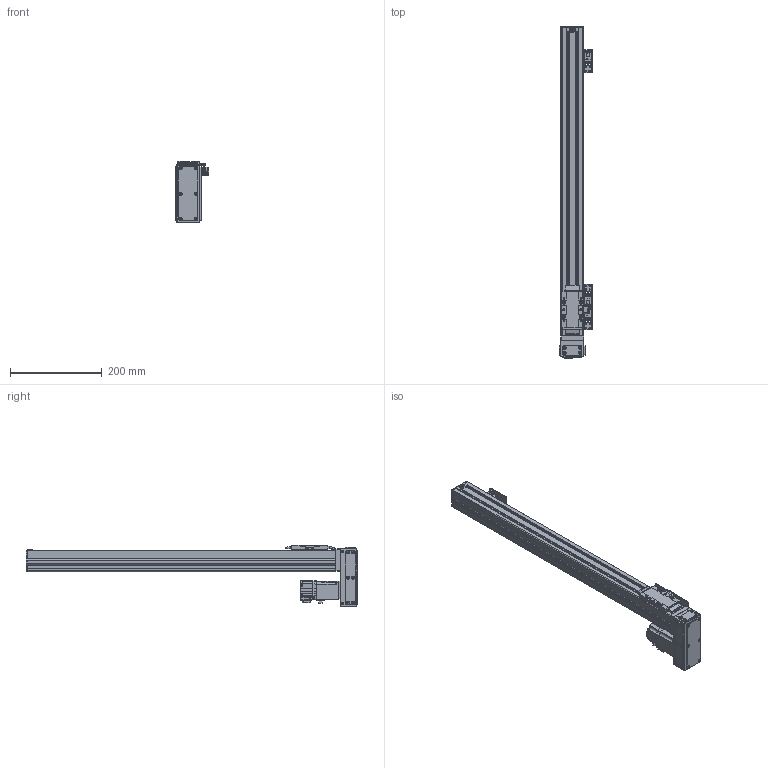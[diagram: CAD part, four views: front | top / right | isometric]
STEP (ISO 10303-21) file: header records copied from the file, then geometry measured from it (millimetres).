
FILE_DESCRIPTION(/* description */ (''),/* implementation_level */ '2;1');
FILE_NAME(/* name */ '\\192.168.0.160\disk1\HAN SHIN Master\B-설계부문\C-표준\B-2024년\BC02-표준도면\+로봇 개선표준도면\홈페이지 표준 도면\홈페이지 최종 작업 폴더\3D\HC\HC50-D10-N-0550-R10.stp',/* time_stamp */ '2025-05-26T17:58:44+09:00',/* author */ ('user'),/* organization */ (''),/* preprocessor_version */ 'ST-DEVELOPER v18.1',/* originating_system */ 'Autodesk Inventor 2022',/* authorisation */ '');
FILE_SCHEMA (('AUTOMOTIVE_DESIGN { 1 0 10303 214 3 1 1 }'));
Length unit declared in the file: millimetre
Products named in the file (27): HC50-D10-N-0200-R10 (높이 변경); HC50 BASE-R1; HC50 REAR BLOCK; HR45 FRONT BLOCK; SENSOR DOG BRK; HC50 SENSOR DOG; ISO 4762 - M3 x 16; HC45 UPCOVER; HC75,90 SHEET PLATE; HC45, HC65 STOPPER; HC50 REAR COVER-R3; SENSOR BRK(EE-SX674A); EE_SX674A; ESF1210 NUT; HC50SIDECOVER000; HC50 TABLE (서버리 테이프); HC75 TABLE COVER; HC45 TABLE SIDE COVER; MAGNET(∅10X3); hg-kr13_; HC50 DS; HC50 D MOTOR PLATE; HR45 MOTOR PLATE 100W; HC50 D BELT COVER; HR45 ACRYL COVER(정면); HR45 ACRYL COVER(상하면); HR45 ACRYL COVER(측면)
Assembly tree (38 placements, depth 3):
  HC50-D10-N-0200-R10 (높이 변경)
    HC50 BASE-R1
    HC50 REAR BLOCK
    HR45 FRONT BLOCK
    SENSOR BRK(EE-SX674A)  x3
    EE_SX674A  x3
    SENSOR DOG BRK
    HC50 SENSOR DOG
    ISO 4762 - M3 x 16  x2
    HC45 UPCOVER
    HC75,90 SHEET PLATE  x2
    HC45, HC65 STOPPER  x2
    MAGNET(∅10X3)  x3
    HC50 REAR COVER-R3
    ESF1210 NUT
    HC50SIDECOVER000  x2
    HC45 TABLE SIDE COVER  x2
    HC50 TABLE (서버리 테이프)
    HC75 TABLE COVER
    hg-kr13_
    HC50 DS
      HC50 D MOTOR PLATE
      HR45 MOTOR PLATE 100W
      HC50 D BELT COVER
      HR45 ACRYL COVER(정면)
      HR45 ACRYL COVER(상하면)
      HR45 ACRYL COVER(측면)  x2
Bounding box: 72 x 723 x 133 mm (x, y, z)
Volume: 780949.3 mm3; surface area: 531038.5 mm2
Topology: 39 solids, 39 shells, 1557 faces, 4167 edges, 2734 vertices
Faces by surface type: plane 850, cylinder 597, cone 97, bspline 9, torus 4
Full cylindrical faces by diameter (mm): 2.013 x4, 2.459 x91, 3 x2, 3.242 x30, 3.4 x34, 3.5 x34, 4 x8, 4.5 x16, 5 x16, 5.5 x2, 5.6 x2, 5.9 x2, 6 x17, 6.5 x2, 8 x1, 9 x2, 10 x4, 10.5 x3, 12 x1, 15 x3, 18 x1, 21 x2, 22 x2, 24 x1, 24.5 x1, 26 x1, 30 x2
Entity records: 40437 total; most frequent: CARTESIAN_POINT 7765, DIRECTION 6657, ORIENTED_EDGE 6390, EDGE_CURVE 3195, AXIS2_PLACEMENT_3D 2273, VERTEX_POINT 2120, LINE 2111, VECTOR 2111
